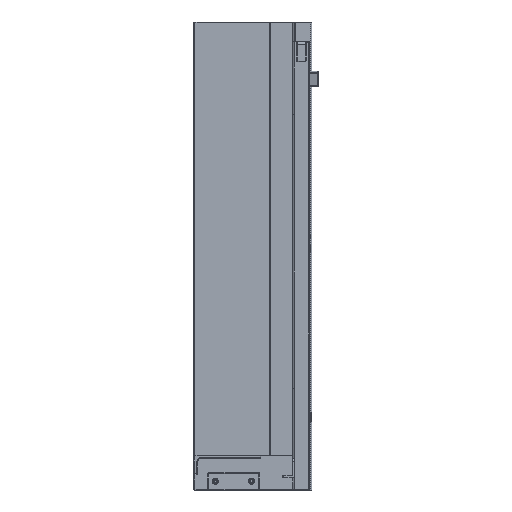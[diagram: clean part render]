
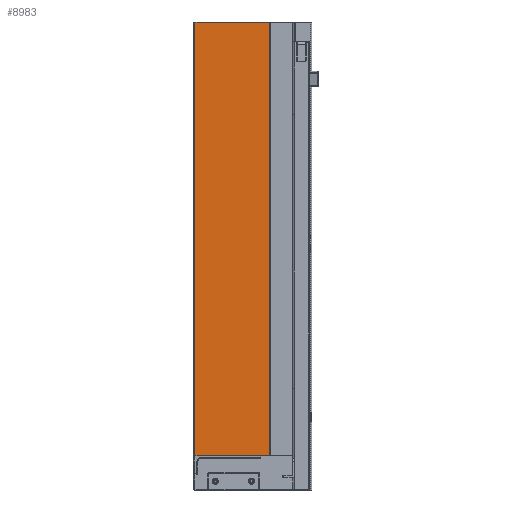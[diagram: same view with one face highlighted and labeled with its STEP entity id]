
A CAD part, left-side view. The second image highlights one B-rep face of the part: STEP entity #8983.
In plain terms, the highlighted planar face has unit normal (-1, 0, 0).
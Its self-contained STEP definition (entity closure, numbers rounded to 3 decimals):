
#382 = AXIS2_PLACEMENT_3D ( 'NONE', #12161, #10292, #4415 ) ;
#1495 = EDGE_CURVE ( 'NONE', #11982, #11886, #11049, .T. ) ;
#2159 = EDGE_CURVE ( 'NONE', #6454, #11982, #9830, .T. ) ;
#2469 = EDGE_LOOP ( 'NONE', ( #3903, #3207, #5473, #10379 ) ) ;
#2753 = CARTESIAN_POINT ( 'NONE',  ( 0.5, 55.8, -323.5 ) ) ;
#3207 = ORIENTED_EDGE ( 'NONE', *, *, #2159, .F. ) ;
#3242 = VECTOR ( 'NONE', #8659, 1000. ) ;
#3418 = PLANE ( 'NONE',  #382 ) ;
#3903 = ORIENTED_EDGE ( 'NONE', *, *, #1495, .F. ) ;
#4309 = VECTOR ( 'NONE', #6517, 1000. ) ;
#4374 = LINE ( 'NONE', #9189, #6671 ) ;
#4411 = CARTESIAN_POINT ( 'NONE',  ( 0.5, 0., 0. ) ) ;
#4415 = DIRECTION ( 'NONE',  ( 0., 0., 1. ) ) ;
#5208 = FACE_OUTER_BOUND ( 'NONE', #2469, .T. ) ;
#5473 = ORIENTED_EDGE ( 'NONE', *, *, #11133, .T. ) ;
#6057 = EDGE_CURVE ( 'NONE', #6678, #11886, #4374, .T. ) ;
#6454 = VERTEX_POINT ( 'NONE', #11825 ) ;
#6503 = CARTESIAN_POINT ( 'NONE',  ( 0.5, 0., -323.5 ) ) ;
#6517 = DIRECTION ( 'NONE',  ( 0., 1., 0. ) ) ;
#6671 = VECTOR ( 'NONE', #11121, 1000. ) ;
#6678 = VERTEX_POINT ( 'NONE', #4411 ) ;
#8383 = LINE ( 'NONE', #11784, #10692 ) ;
#8659 = DIRECTION ( 'NONE',  ( 0., 0., 1. ) ) ;
#8963 = DIRECTION ( 'NONE',  ( 0., 0., 1. ) ) ;
#8983 = ADVANCED_FACE ( 'NONE', ( #5208 ), #3418, .T. ) ;
#9189 = CARTESIAN_POINT ( 'NONE',  ( 0.5, 0., 0. ) ) ;
#9830 = LINE ( 'NONE', #6503, #4309 ) ;
#10292 = DIRECTION ( 'NONE',  ( -1., 0., 0. ) ) ;
#10379 = ORIENTED_EDGE ( 'NONE', *, *, #6057, .T. ) ;
#10692 = VECTOR ( 'NONE', #8963, 1000. ) ;
#11049 = LINE ( 'NONE', #12497, #3242 ) ;
#11121 = DIRECTION ( 'NONE',  ( 0., 1., 0. ) ) ;
#11133 = EDGE_CURVE ( 'NONE', #6454, #6678, #8383, .T. ) ;
#11784 = CARTESIAN_POINT ( 'NONE',  ( 0.5, 0., -412.455 ) ) ;
#11825 = CARTESIAN_POINT ( 'NONE',  ( 0.5, 0., -323.5 ) ) ;
#11886 = VERTEX_POINT ( 'NONE', #12227 ) ;
#11982 = VERTEX_POINT ( 'NONE', #2753 ) ;
#12161 = CARTESIAN_POINT ( 'NONE',  ( 0.5, 0., -412.455 ) ) ;
#12227 = CARTESIAN_POINT ( 'NONE',  ( 0.5, 55.8, 0. ) ) ;
#12497 = CARTESIAN_POINT ( 'NONE',  ( 0.5, 55.8, -412.455 ) ) ;
